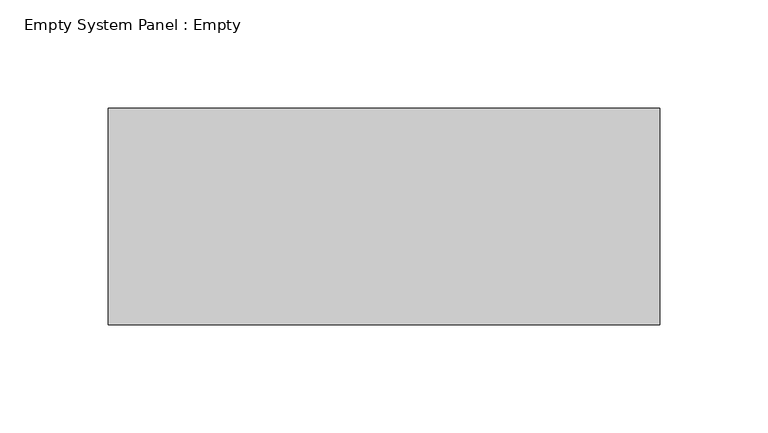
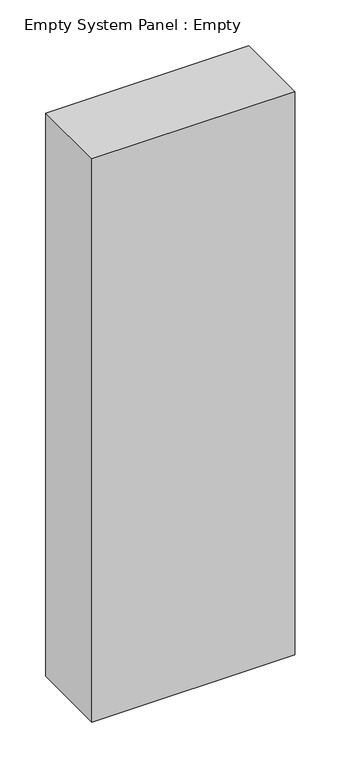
"""IFC4 building model written with IfcOpenShell, lengths in millimetres: plate geometry, Empty System Panel : Empty."""

from ifc_helpers import new_model, si_unit, origin, origin_with_axes, place, context, project, spatial, polyline, outline, extrude, source, transform, mapped, element, save


def empty_system_panel_empty_0363bcf5(model_context):
    return source(origin(), model_context, "Body", "SweptSolid", [
        extrude(outline(polyline([(127.5, -50.0), (-127.5, -50.0), (-127.5, 50.0), (127.5, 50.0), (127.5, -50.0)])), origin_with_axes(), (0.0, 0.0, 1.0), 748.2),
    ])


if __name__ == "__main__":
    model = new_model("IFC4")
    model_context = context("Model", 3, world=origin())
    ifc_project = project(units=[si_unit("LENGTHUNIT", "METRE", prefix="MILLI")], contexts=[model_context])
    site = spatial("IfcSite", under=ifc_project)
    building = spatial("IfcBuilding", under=site)
    placement = place(None, origin())
    empty_system_panel_empty_shape = empty_system_panel_empty_0363bcf5(model_context)
    element("IfcPlate", 1, ObjectType="Empty System Panel : Empty", at=placement, inside=building, context=model_context, shape_type="MappedRepresentation", body=[
        mapped(empty_system_panel_empty_shape, transform((0.0, 0.0, 0.0), x_axis=(1.0, 0.0, 0.0), y_axis=(0.0, 1.0, 0.0), z_axis=(0.0, 0.0, 1.0))),
    ])
    save(model, "model.ifc")
